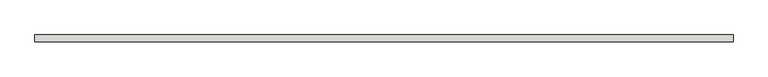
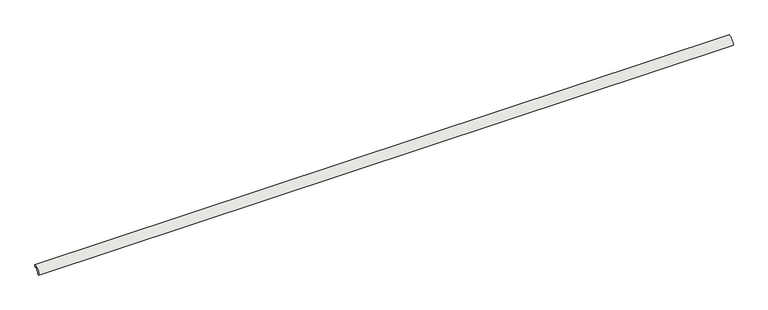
"""IFC4 building model written with IfcOpenShell, lengths in millimetres: slab geometry, ROSA GRES_183 : Pieza 183_Serena_Ocra_Anti-Slip."""

from ifc_helpers import new_model, si_unit, point, frame, frame_2d, origin, origin_2d, place, context, project, spatial, polyline, circle_curve, trimmed, segment, composite_curve, outline, extrude, source, transform, mapped, element, save


def slab_a514d54c(model_context):
    return source(origin(), model_context, "Body", "SweptSolid", [
        extrude(outline(composite_curve([segment(polyline([(0.0, 40.0), (0.0, 30.0265886)]), True, "CONTINUOUS"), segment(trimmed(circle_curve(frame_2d((-0.0044453, 0.0044453)), 30.0221435), [point((0.0, 30.0265886))], [point((-30.0265886, 0.0))], True, "CARTESIAN"), True, "CONTINUOUS"), segment(polyline([(-30.0265886, 0.0), (-40.0, 0.0)]), True, "CONTINUOUS"), segment(trimmed(circle_curve(origin_2d(), 40.0), [point((-40.0, 0.0))], [point((0.0, 40.0))], False, "CARTESIAN"), True, "CONTINUOUS")], self_intersect=False)), frame((0.0, 0.0, 0.0), z_axis=(1.0, 0.0, 0.0), x_axis=(0.0, 1.0, 0.0)), (0.0, 0.0, 1.0), 4120.9468229),
    ])


if __name__ == "__main__":
    model = new_model("IFC4")
    model_context = context("Model", 3, world=origin())
    ifc_project = project(units=[si_unit("LENGTHUNIT", "METRE", prefix="MILLI")], contexts=[model_context])
    site = spatial("IfcSite", under=ifc_project)
    building = spatial("IfcBuilding", under=site)
    placement = place(None, origin())
    slab_shape = slab_a514d54c(model_context)
    element("IfcSlab", 1, ObjectType="ROSA GRES_183 : Pieza 183_Serena_Ocra_Anti-Slip", at=placement, inside=building, context=model_context, shape_type="MappedRepresentation", body=[
        mapped(slab_shape, transform((0.0, 0.0, 0.0), x_axis=(1.0, 0.0, 0.0), y_axis=(0.0, 1.0, 0.0), z_axis=(0.0, 0.0, 1.0))),
    ])
    save(model, "model.ifc")
